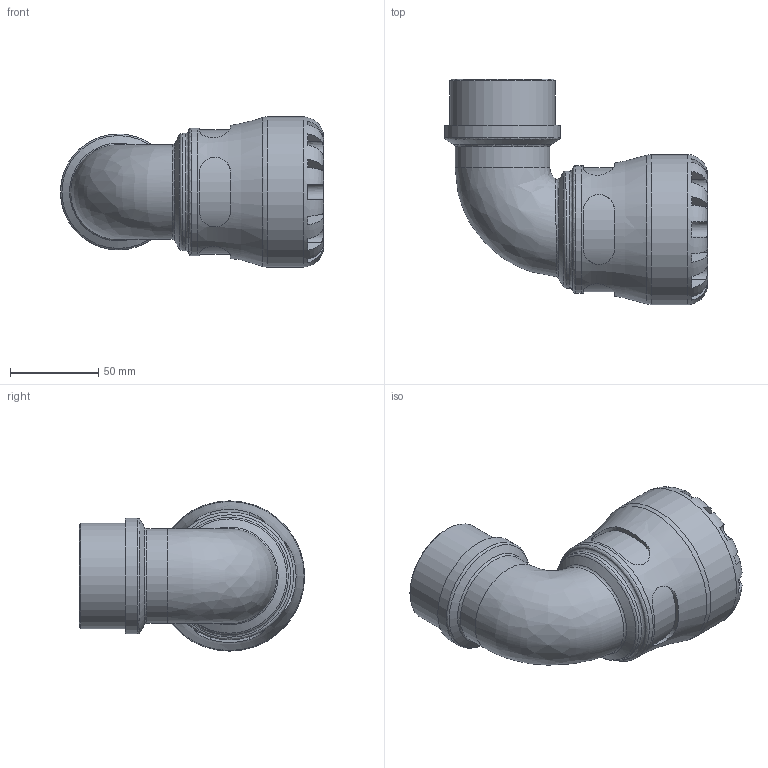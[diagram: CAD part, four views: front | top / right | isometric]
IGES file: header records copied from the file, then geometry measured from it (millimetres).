
Global section: file name: 107700050020_197700050020.ipt; native system: Autodesk Inventor 2015; preprocessor: unknown; author: KIM; date: 20170122.115512; units: millimetre
Bounding box: 148.79 x 127.5 x 85 mm (x, y, z)
Volume: 345247.9 mm3; surface area: 74741.5 mm2
Topology: 1 solids, 1 shells, 112 faces, 290 edges, 183 vertices
Faces by surface type: plane 60, revolution 28, cylinder 18, bspline 4, cone 2
Full cylindrical faces by diameter (mm): 53.653 x1, 59.614 x1, 65.575 x1, 66.3 x1, 72.25 x1, 85 x1
